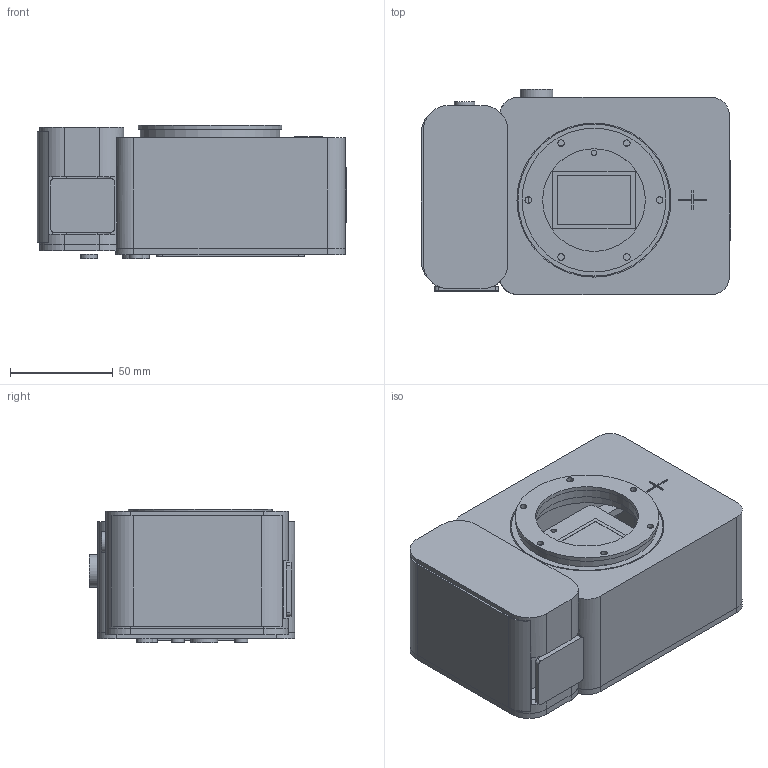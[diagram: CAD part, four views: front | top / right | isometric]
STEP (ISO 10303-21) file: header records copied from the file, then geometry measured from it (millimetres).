
FILE_DESCRIPTION(('Open CASCADE Model'),'2;1');
FILE_NAME('Open CASCADE Shape Model','2026-11-05T01:23:31',('Author'),( 'Open CASCADE'),'Open CASCADE STEP processor 7.8','Open CASCADE 7.8' ,'Unknown');
FILE_SCHEMA(('AUTOMOTIVE_DESIGN { 1 0 10303 214 1 1 1 1 }'));
Length unit declared in the file: millimetre
Products named in the file (25): HassleFree_FF1_E_concept; 01_front_shell; 02_grip_wrap; 03_rear_shell; 04_load_bearing_chassis; 05_humi_common_interface; 06_e_mount_cartridge_body; 07_e_mount_reference_flange; 10_independent_sensor_carrier; 11_sensor_package_placeholder; 12_sensor_active_36x24; 13_three_point_sensor_spacers; 14_heat_spreader_placeholder; 15_main_processing_board_envelope; 16_control_board_provisional_envelope; 26_control_board_component_envelopes; 17_replaceable_battery_envelope; 18_battery_service_door; 19_removable_storage_envelope; 20_storage_service_door; 21_display_module_envelope; 22_rear_buttons; 23_shutter_button; 24_top_control_dial; 25_sensor_datum_mark
Assembly tree (24 placements, depth 2):
  HassleFree_FF1_E_concept
    01_front_shell
    02_grip_wrap
    03_rear_shell
    04_load_bearing_chassis
    05_humi_common_interface
    06_e_mount_cartridge_body
    07_e_mount_reference_flange
    10_independent_sensor_carrier
    11_sensor_package_placeholder
    12_sensor_active_36x24
    13_three_point_sensor_spacers
    14_heat_spreader_placeholder
    15_main_processing_board_envelope
    16_control_board_provisional_envelope
    26_control_board_component_envelopes
    17_replaceable_battery_envelope
    18_battery_service_door
    19_removable_storage_envelope
    20_storage_service_door
    21_display_module_envelope
    22_rear_buttons
    23_shutter_button
    24_top_control_dial
    25_sensor_datum_mark
Bounding box: 150.7 x 100 x 65 mm (x, y, z)
Volume: 312339.3 mm3; surface area: 222591 mm2
Topology: 32 solids, 32 shells, 354 faces, 876 edges, 584 vertices
Faces by surface type: plane 212, cylinder 142
Full cylindrical faces by diameter (mm): 1 x14, 2.6 x9, 2.7 x4, 3.2 x24, 6 x3, 6.4 x3, 8 x1, 10 x1, 13 x1, 16 x1, 50 x2, 57 x2, 68 x1, 70 x1, 74 x1, 75 x1
Entity records: 23244 total; most frequent: CARTESIAN_POINT 4383, DIRECTION 3554, LINE 2028, VECTOR 2028, ORIENTED_EDGE 1752, PCURVE 1752, DEFINITIONAL_REPRESENTATION 1752, EDGE_CURVE 876
